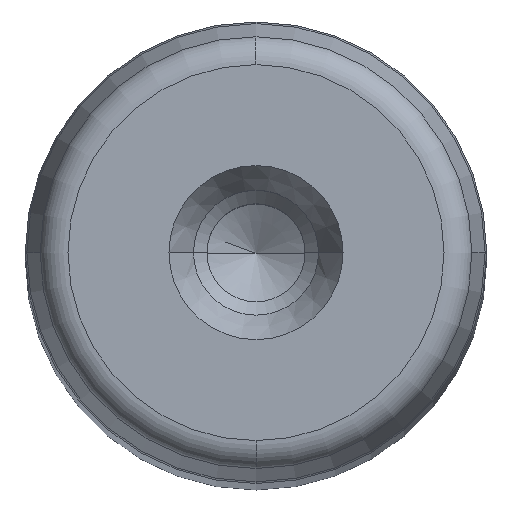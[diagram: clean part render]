
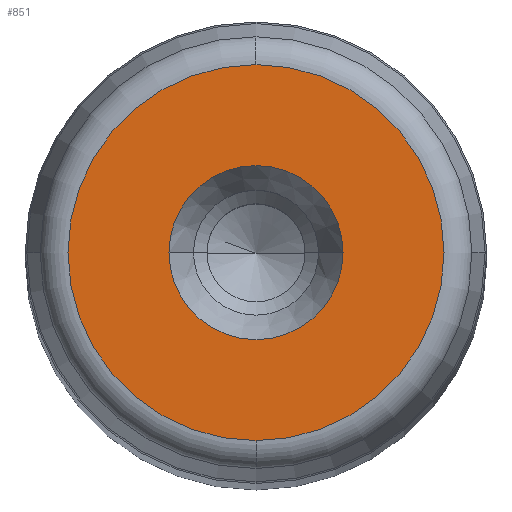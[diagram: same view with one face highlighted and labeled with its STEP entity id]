
A CAD part, top view. The second image highlights one B-rep face of the part: STEP entity #851.
In plain terms, the highlighted planar face has unit normal (0, 0, 1) as drawn and (0, 1, 0) by its records, which use the part's own axes.
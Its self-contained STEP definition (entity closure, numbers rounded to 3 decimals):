
#281=CARTESIAN_POINT('',(9.05,400.0,0.0));
#282=VERTEX_POINT('',#281);
#289=CARTESIAN_POINT('',(-9.05,400.0,0.));
#290=VERTEX_POINT('',#289);
#291=CARTESIAN_POINT('',(0.0,400.0,0.0));
#292=DIRECTION('',(0.0,1.0,0.0));
#293=DIRECTION('',(1.0,0.0,0.0));
#294=AXIS2_PLACEMENT_3D('',#291,#292,#293);
#295=CIRCLE('',#294,9.05);
#296=EDGE_CURVE('',#282,#290,#295,.T.);
#313=CARTESIAN_POINT('',(0.0,400.0,19.554));
#314=VERTEX_POINT('',#313);
#324=CARTESIAN_POINT('',(0.,400.0,-19.554));
#325=VERTEX_POINT('',#324);
#326=CARTESIAN_POINT('',(0.0,400.0,0.0));
#327=DIRECTION('',(0.0,1.0,0.0));
#328=DIRECTION('',(1.0,0.0,0.0));
#329=AXIS2_PLACEMENT_3D('',#326,#327,#328);
#330=CIRCLE('',#329,19.554);
#331=EDGE_CURVE('',#325,#314,#330,.T.);
#812=CARTESIAN_POINT('',(19.554,400.0,0.0));
#813=VERTEX_POINT('',#812);
#814=CARTESIAN_POINT('',(0.0,400.0,0.0));
#815=DIRECTION('',(0.0,1.0,0.0));
#816=DIRECTION('',(1.0,0.0,0.0));
#817=AXIS2_PLACEMENT_3D('',#814,#815,#816);
#818=CIRCLE('',#817,19.554);
#819=EDGE_CURVE('',#813,#325,#818,.T.);
#821=CARTESIAN_POINT('',(0.0,400.0,0.0));
#822=DIRECTION('',(0.0,1.0,0.0));
#823=DIRECTION('',(1.0,0.0,0.0));
#824=AXIS2_PLACEMENT_3D('',#821,#822,#823);
#825=CIRCLE('',#824,19.554);
#826=EDGE_CURVE('',#314,#813,#825,.T.);
#831=CARTESIAN_POINT('',(-21.51,400.0,-21.51));
#832=DIRECTION('',(0.0,1.0,0.0));
#833=DIRECTION('',(0.0,0.0,1.0));
#834=AXIS2_PLACEMENT_3D('',#831,#832,#833);
#835=PLANE('',#834);
#836=ORIENTED_EDGE('',*,*,#819,.T.);
#837=ORIENTED_EDGE('',*,*,#331,.T.);
#838=ORIENTED_EDGE('',*,*,#826,.T.);
#839=EDGE_LOOP('',(#836,#837,#838));
#840=FACE_OUTER_BOUND('',#839,.T.);
#841=ORIENTED_EDGE('',*,*,#296,.F.);
#842=CARTESIAN_POINT('',(0.0,400.0,0.0));
#843=DIRECTION('',(0.0,1.0,0.0));
#844=DIRECTION('',(1.0,0.0,0.0));
#845=AXIS2_PLACEMENT_3D('',#842,#843,#844);
#846=CIRCLE('',#845,9.05);
#847=EDGE_CURVE('',#290,#282,#846,.T.);
#848=ORIENTED_EDGE('',*,*,#847,.F.);
#849=EDGE_LOOP('',(#841,#848));
#850=FACE_BOUND('',#849,.T.);
#851=ADVANCED_FACE('',(#840,#850),#835,.T.);
